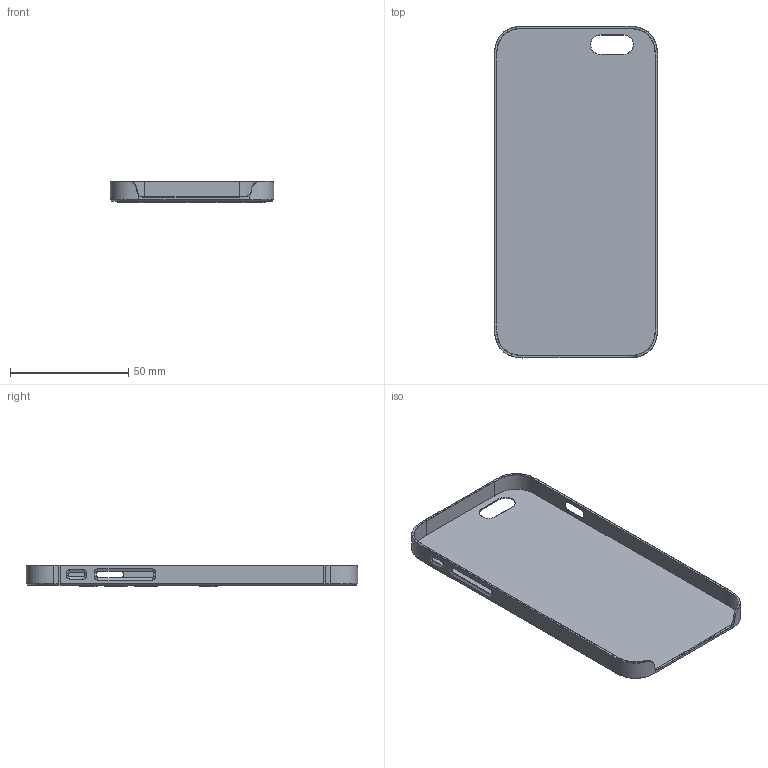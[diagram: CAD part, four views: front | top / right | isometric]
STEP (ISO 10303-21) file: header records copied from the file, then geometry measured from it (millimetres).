
FILE_DESCRIPTION (( 'STEP AP203' ), '1' );
FILE_NAME ('funda iphone.STEP', '2015-05-27T18:29:59', ( '' ), ( '' ), 'SwSTEP 2.0', 'SolidWorks 2014', '' );
FILE_SCHEMA (( 'CONFIG_CONTROL_DESIGN' ));
Length unit declared in the file: millimetre
Products named in the file (1): funda iphone
Bounding box: 68.98 x 140.13 x 9.2 mm (x, y, z)
Volume: 12316 mm3; surface area: 24989.5 mm2
Topology: 1 solids, 1 shells, 597 faces, 1537 edges, 992 vertices
Faces by surface type: plane 409, bspline 141, cone 30, cylinder 17
Entity records: 28852 total; most frequent: CARTESIAN_POINT 15247, ORIENTED_EDGE 3074, DIRECTION 2199, EDGE_CURVE 1537, LINE 1163, VECTOR 1163, VERTEX_POINT 992, EDGE_LOOP 655
